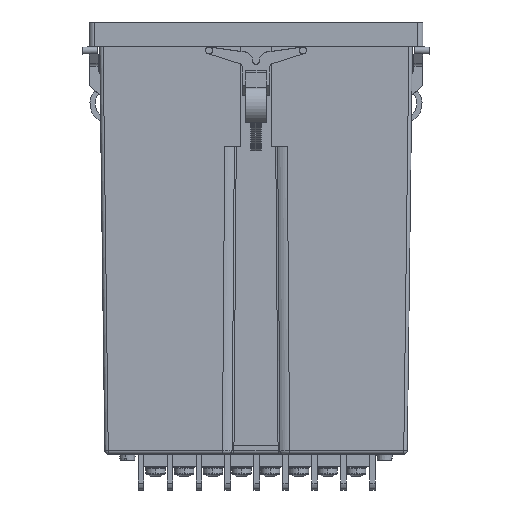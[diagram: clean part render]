
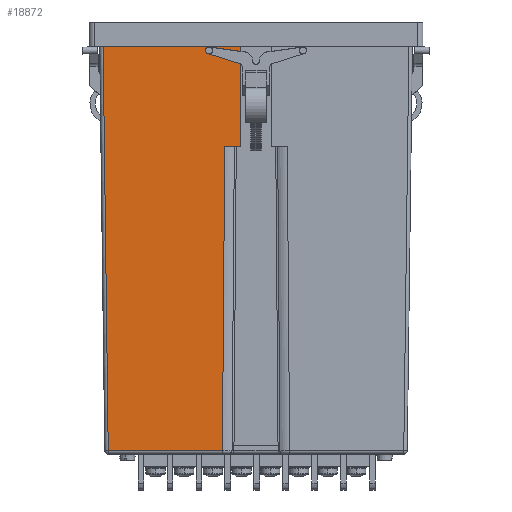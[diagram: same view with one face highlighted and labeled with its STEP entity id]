
A CAD part, front view. The second image highlights one B-rep face of the part: STEP entity #18872.
In plain terms, the highlighted planar face has unit normal (0, -1, -0.013).
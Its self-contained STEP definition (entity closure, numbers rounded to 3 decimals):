
#99 = CARTESIAN_POINT ( 'NONE',  ( -4.46, -44.62, -33.898 ) ) ;
#2948 = EDGE_CURVE ( 'NONE', #86278, #44125, #45174, .T. ) ;
#3246 = DIRECTION ( 'NONE',  ( 0.013, 0.013, -1. ) ) ;
#3317 = VERTEX_POINT ( 'NONE', #40726 ) ;
#4381 = CARTESIAN_POINT ( 'NONE',  ( 45., -45., -3.9 ) ) ;
#5129 = EDGE_CURVE ( 'NONE', #78731, #3317, #92933, .T. ) ;
#8608 = ORIENTED_EDGE ( 'NONE', *, *, #2948, .T. ) ;
#12415 = DIRECTION ( 'NONE',  ( -1., 0., 0. ) ) ;
#14711 = ORIENTED_EDGE ( 'NONE', *, *, #105493, .T. ) ;
#18872 = ADVANCED_FACE ( 'NONE', ( #56673 ), #74354, .T. ) ;
#20958 = ORIENTED_EDGE ( 'NONE', *, *, #72561, .F. ) ;
#21488 = LINE ( 'NONE', #93409, #36336 ) ;
#22269 = DIRECTION ( 'NONE',  ( -1., 0., 0. ) ) ;
#24981 = DIRECTION ( 'NONE',  ( 0., 0.013, -1. ) ) ;
#27973 = DIRECTION ( 'NONE',  ( 1., 0., 0. ) ) ;
#29029 = LINE ( 'NONE', #93948, #57226 ) ;
#32233 = ORIENTED_EDGE ( 'NONE', *, *, #49596, .F. ) ;
#35494 = VECTOR ( 'NONE', #12415, 1000. ) ;
#36336 = VECTOR ( 'NONE', #3246, 1000. ) ;
#39427 = LINE ( 'NONE', #102738, #84111 ) ;
#40726 = CARTESIAN_POINT ( 'NONE',  ( -44., -45., -3.9 ) ) ;
#40960 = EDGE_LOOP ( 'NONE', ( #14711, #66035, #8608, #32233, #20958, #56402 ) ) ;
#42283 = CARTESIAN_POINT ( 'NONE',  ( -4.46, -44.62, -33.898 ) ) ;
#44125 = VERTEX_POINT ( 'NONE', #91232 ) ;
#44692 = VECTOR ( 'NONE', #46759, 1000. ) ;
#45174 = LINE ( 'NONE', #78987, #44692 ) ;
#46759 = DIRECTION ( 'NONE',  ( 0.008, -0.013, 1. ) ) ;
#49596 = EDGE_CURVE ( 'NONE', #93192, #44125, #39427, .T. ) ;
#50023 = CARTESIAN_POINT ( 'NONE',  ( -4.5, -45., -3.9 ) ) ;
#50166 = DIRECTION ( 'NONE',  ( 0., -1., -0.013 ) ) ;
#56402 = ORIENTED_EDGE ( 'NONE', *, *, #5129, .T. ) ;
#56673 = FACE_OUTER_BOUND ( 'NONE', #40960, .T. ) ;
#57205 = CARTESIAN_POINT ( 'NONE',  ( 0., -45.042, -0.57 ) ) ;
#57226 = VECTOR ( 'NONE', #27973, 1000. ) ;
#66035 = ORIENTED_EDGE ( 'NONE', *, *, #77512, .T. ) ;
#72561 = EDGE_CURVE ( 'NONE', #78731, #93192, #100167, .T. ) ;
#74354 = PLANE ( 'NONE',  #84295 ) ;
#76868 = VERTEX_POINT ( 'NONE', #98651 ) ;
#77512 = EDGE_CURVE ( 'NONE', #76868, #86278, #29029, .T. ) ;
#78731 = VERTEX_POINT ( 'NONE', #50023 ) ;
#78987 = CARTESIAN_POINT ( 'NONE',  ( -9., -44.621, -33.875 ) ) ;
#80730 = VECTOR ( 'NONE', #92136, 1000. ) ;
#84111 = VECTOR ( 'NONE', #22269, 1000. ) ;
#84295 = AXIS2_PLACEMENT_3D ( 'NONE', #57205, #50166, #24981 ) ;
#85180 = CARTESIAN_POINT ( 'NONE',  ( -9.665, -43.512, -121.413 ) ) ;
#86278 = VERTEX_POINT ( 'NONE', #85180 ) ;
#91232 = CARTESIAN_POINT ( 'NONE',  ( -9., -44.62, -33.898 ) ) ;
#92136 = DIRECTION ( 'NONE',  ( 0.001, 0.013, -1. ) ) ;
#92933 = LINE ( 'NONE', #4381, #35494 ) ;
#93192 = VERTEX_POINT ( 'NONE', #99 ) ;
#93409 = CARTESIAN_POINT ( 'NONE',  ( -44.035, -45.035, -1.127 ) ) ;
#93948 = CARTESIAN_POINT ( 'NONE',  ( -9.673, -43.512, -121.413 ) ) ;
#98651 = CARTESIAN_POINT ( 'NONE',  ( -42.513, -43.512, -121.413 ) ) ;
#100167 = LINE ( 'NONE', #42283, #80730 ) ;
#102738 = CARTESIAN_POINT ( 'NONE',  ( 0., -44.62, -33.898 ) ) ;
#105493 = EDGE_CURVE ( 'NONE', #3317, #76868, #21488, .T. ) ;
